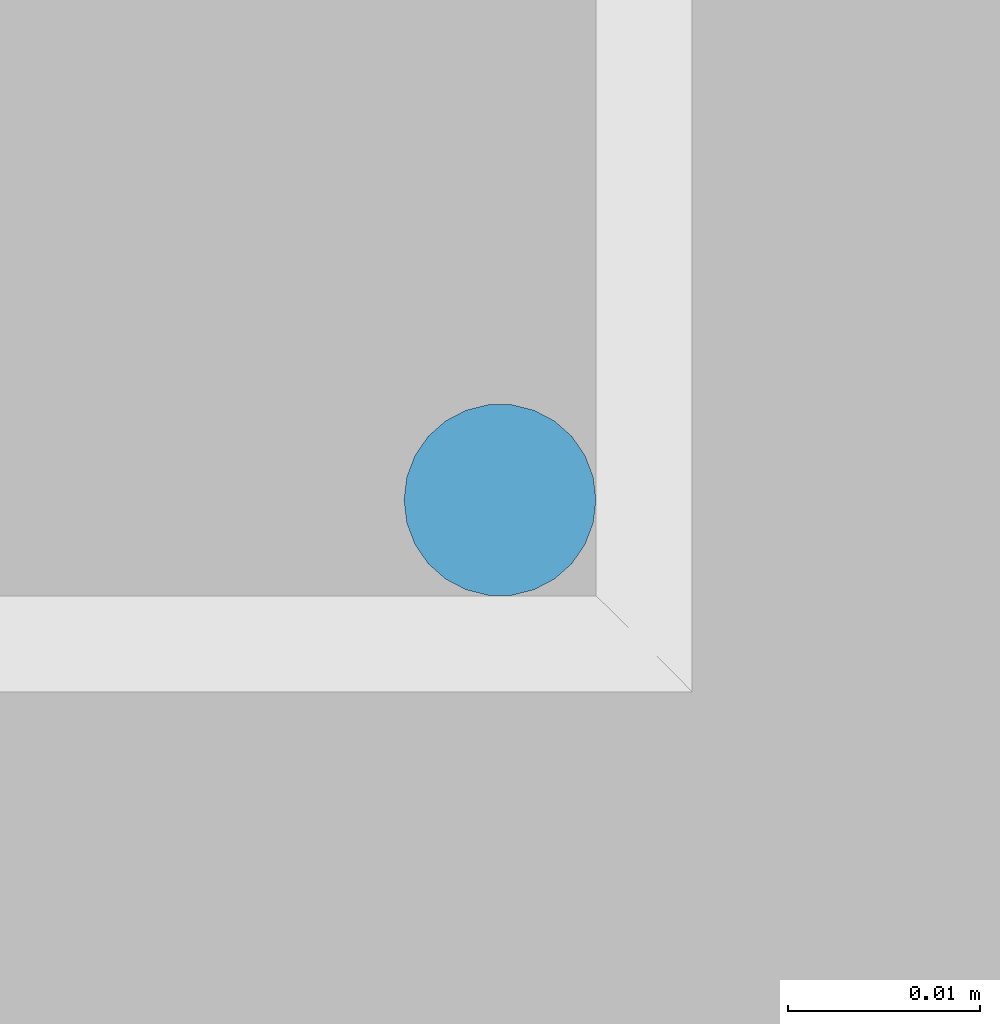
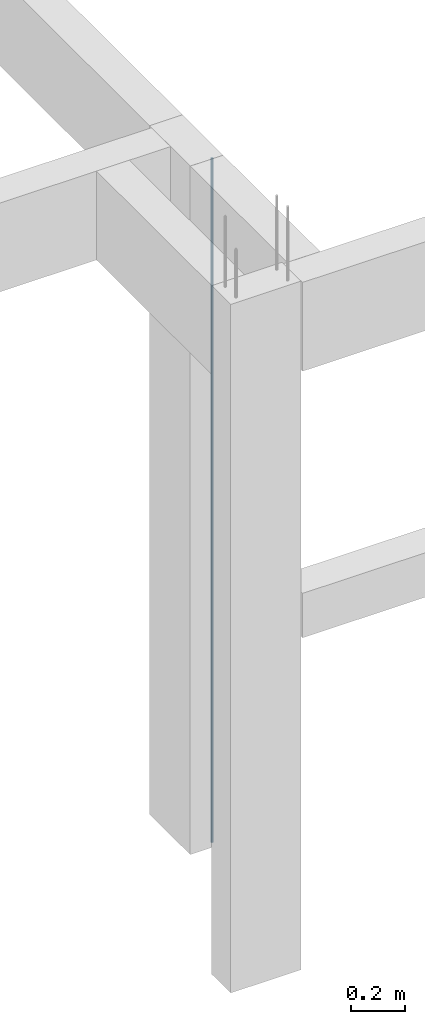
# One storey, part 13 of 236: 1 reinforcing bar.
"""IFC4 building model written with IfcOpenShell, lengths in centimetres."""

from ifc_helpers import new_model, entity, si_unit, derived_unit, frame, origin_with_axes, place, context, project, spatial, element, save


model = new_model("IFC4")

# Units and contexts
model_context = context("Model", 3, precision=1e-05, world=origin_with_axes(), identifier="Body")
ifc_project = project(units=[si_unit("LENGTHUNIT", "METRE", prefix="CENTI"), si_unit("VOLUMEUNIT", "CUBIC_METRE"), si_unit("AREAUNIT", "SQUARE_METRE"), si_unit("POWERUNIT", "WATT"), si_unit("LUMINOUSFLUXUNIT", "LUMEN"), si_unit("ELECTRICCURRENTUNIT", "AMPERE"), si_unit("PRESSUREUNIT", "PASCAL", prefix="KILO"), si_unit("MASSUNIT", "GRAM", prefix="KILO"), si_unit("PLANEANGLEUNIT", "RADIAN"), derived_unit("VOLUMETRICFLOWRATEUNIT", [(si_unit("LENGTHUNIT", "METRE"), 3), (si_unit("TIMEUNIT", "SECOND"), -1)])], contexts=[model_context])

# Site, building, storey
site_placement = place(None, frame((-4000.0, 0.0, 0.0), z_axis=(0.0, 0.0, 1.0), x_axis=(1.0, 0.0, 0.0)))
site = spatial("IfcSite", under=ifc_project, at=site_placement, Name="PADRÃO")
building_placement = place(site_placement, frame((0.0, 0.0, -14.0)))
building = spatial("IfcBuilding", under=site, at=building_placement, Name="CRECHE PRÉ-ESCOLA TIPO 2")
placement_1 = place(building_placement, origin_with_axes())
placement_2 = place(placement_1, frame((0.0, 0.0, 30.0), z_axis=(0.0, 0.0, 1.0), x_axis=(1.0, 0.0, 0.0)))
storey_placement = place(placement_2, frame((0.0, 0.0, 310.0), z_axis=(0.0, 0.0, 1.0), x_axis=(1.0, 0.0, 0.0)))
storey = spatial("IfcBuildingStorey", under=building, at=storey_placement, Name="TERREO", CompositionType="ELEMENT", Elevation=326.0)

# Reinforcing bar
reinforcing_bar_placement = place(storey_placement, frame((507.57, 496.51, -2.0), z_axis=(0.0, 0.0, 1.0), x_axis=(1.0, 0.0, 0.0)))
element("IfcReinforcingBar", 1, at=reinforcing_bar_placement, inside=storey, Name="P136 - Longitudinal", BarLength=0.0, CrossSectionArea=7.853981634e-05, NominalDiameter=1.0, PredefinedType="MAIN", context=model_context, shape_type="AdvancedSweptSolid", body=[
    entity("IfcSweptDiskSolid", entity("IfcCompositeCurve", [entity("IfcCompositeCurveSegment", "CONTINUOUS", True, entity("IfcPolyline", [entity("IfcCartesianPoint", [0.0, 0.0, -308.0]), entity("IfcCartesianPoint", [0.0, 0.0, 0.0])]))], False), 0.5),
])

save(model, "model.ifc")
